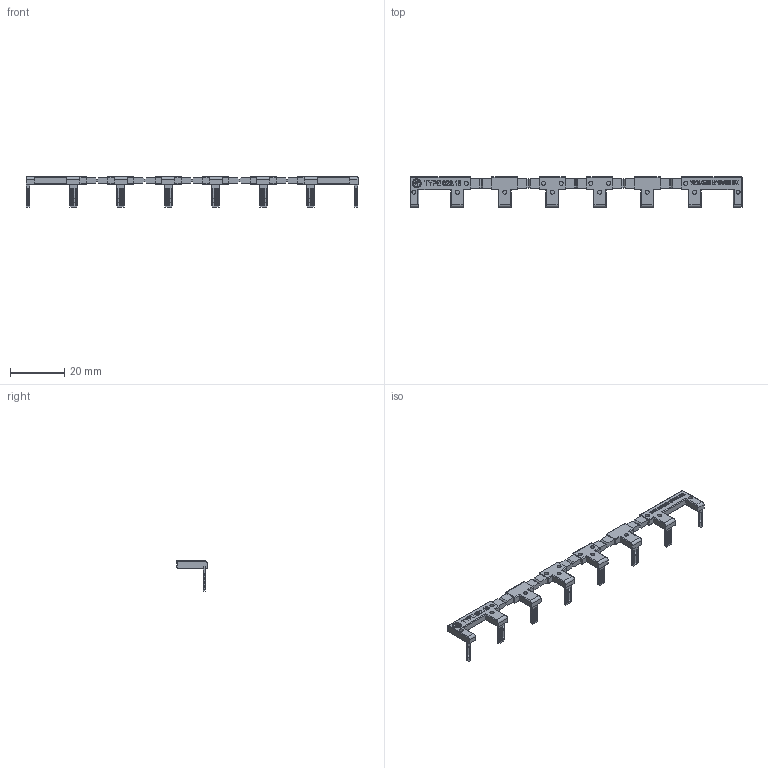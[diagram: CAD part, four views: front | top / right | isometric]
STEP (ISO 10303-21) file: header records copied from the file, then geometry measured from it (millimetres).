
FILE_DESCRIPTION(('STEP AP214'),'2;1');
FILE_NAME('022.18-catalogo.stp','2010-12-06T14:13:50',(''),(''),'2007.1.106','THINKDESIGN','');
FILE_SCHEMA(('AUTOMOTIVE_DESIGN'));
Products named in the file (1): None
Bounding box: 122.4 x 11.3 x 11.2 mm (x, y, z)
Surface area: 3167.2 mm2 (no closed solid volume)
Topology: 0 solids, 0 shells, 1415 faces, 7894 edges, 7892 vertices
Faces by surface type: plane 950, bspline 354, cylinder 111
Full cylindrical faces by diameter (mm): 1.5 x28, 3.296 x1
Entity records: 78314 total; most frequent: CARTESIAN_POINT 21193, DIRECTION 9346, COMPOSITE_CURVE_SEGMENT 7892, TRIMMED_CURVE 7020, VECTOR 6816, LINE 6816, OUTER_BOUNDARY_CURVE 1415, CURVE_BOUNDED_SURFACE 1415
